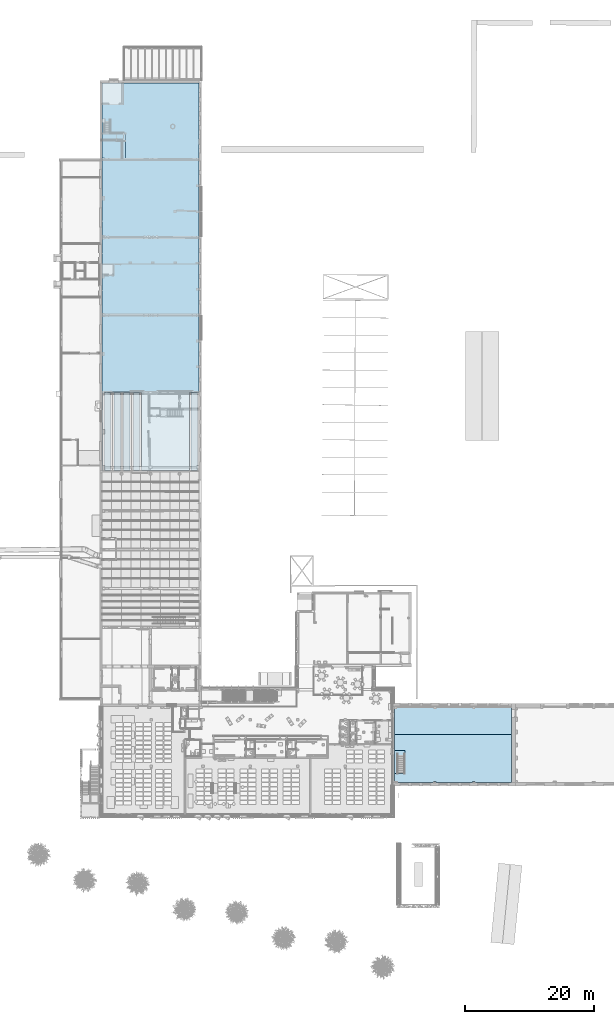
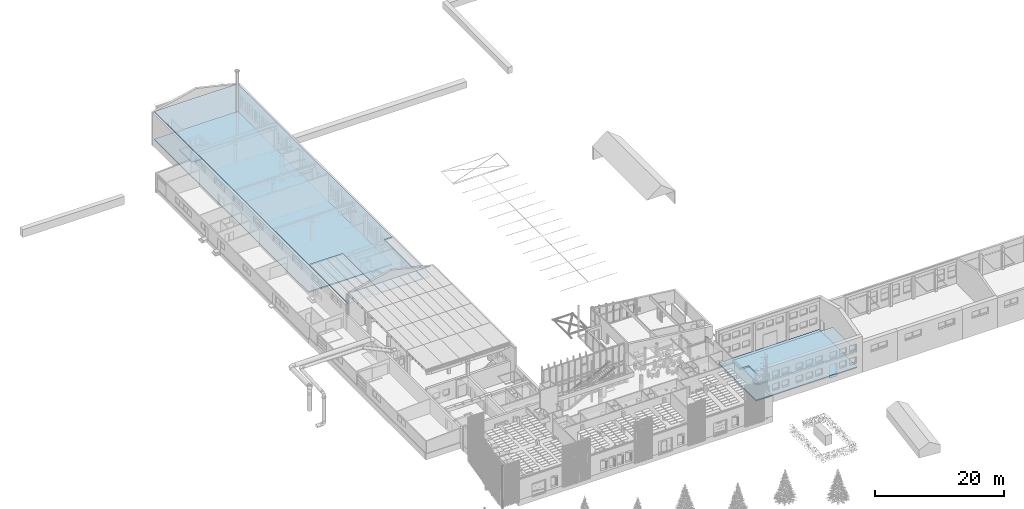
# One storey, part 80 of 301: 5 slabs.
"""IFC2X3 building model written with IfcOpenShell, lengths in millimetres."""

import ifcopenshell
import ifcopenshell.guid

model = None  # the IFC model being written
_history = None  # IfcOwnerHistory: only IFC2X3 demands one
_inside = {}  # id of a spatial element -> (the spatial element, [elements in it])
_under = {}  # id of a project, library or spatial element -> (it, [spatial elements below it])
_declared = {}  # id of a project -> (the project, [libraries it declares])
_typed = {}  # id of a type object -> (the type object, [elements of that type])
_made_of = {}  # id of a material, layer set ... -> (it, [elements and type objects made of it])


def new_model(schema):
    """Start an empty IFC model of exactly this schema.

    Asked for "IFC4X3", IfcOpenShell would pick the latest addendum, in which some entities
    have other attributes; the version numbers below select the first issue.
    IFC2X3 requires an IfcOwnerHistory on every rooted entity: one is made here for all.
    """
    global model, _history
    if schema == "IFC4X3":
        model = ifcopenshell.file(schema_version=(4, 3, 0, 0))
    else:
        model = ifcopenshell.file(schema=schema)
    _inside.clear()
    _under.clear()
    _declared.clear()
    _typed.clear()
    _made_of.clear()
    _history = None
    if model.schema == "IFC2X3":
        org = make("IfcOrganization", Name="unknown")
        user = make(
            "IfcPersonAndOrganization",
            ThePerson=make("IfcPerson", FamilyName="unknown"),
            TheOrganization=org,
        )
        app = make(
            "IfcApplication",
            ApplicationDeveloper=org,
            Version="unknown",
            ApplicationFullName="unknown",
            ApplicationIdentifier="unknown",
        )
        _history = make(
            "IfcOwnerHistory",
            OwningUser=user,
            OwningApplication=app,
            ChangeAction="ADDED",
            CreationDate=0,
        )
    return model


def make(cls, **values):
    """One entity of the class cls with the attributes given. An attribute that is None is left unset."""
    return model.create_entity(
        cls, **{name: value for name, value in values.items() if value is not None}
    )


def entity(cls, *values):
    """Any entity or typed value of the class cls, its attributes in the order of the schema. None: left unset."""
    e = model.create_entity(cls)
    for i, value in enumerate(values):
        if value is not None:
            e[i] = value
    return e


def rooted(cls, **values):
    """An entity with a GlobalId (a new one), such as an element, a storey or a relation."""
    return make(cls, GlobalId=ifcopenshell.guid.new(), OwnerHistory=_history, **values)


def si_unit(unit_type, name, prefix=None):
    """IfcSIUnit, for example si_unit("LENGTHUNIT", "METRE", prefix="MILLI")."""
    return make("IfcSIUnit", UnitType=unit_type, Prefix=prefix, Name=name)


def converted_unit(unit_type, name, factor, base, dimensions=None, offset=None):
    """IfcConversionBasedUnit, such as the inch: factor (a typed value) times the base unit."""
    return make(
        "IfcConversionBasedUnit"
        if offset is None
        else "IfcConversionBasedUnitWithOffset",
        ConversionOffset=offset,
        Dimensions=None
        if dimensions is None
        else entity("IfcDimensionalExponents", *dimensions),
        UnitType=unit_type,
        Name=name,
        ConversionFactor=make(
            "IfcMeasureWithUnit", ValueComponent=factor, UnitComponent=base
        ),
    )


def derived_unit(unit_type, elements):
    """IfcDerivedUnit: a product of units, each with its exponent."""
    return make(
        "IfcDerivedUnit",
        Elements=[
            make("IfcDerivedUnitElement", Unit=unit, Exponent=power)
            for unit, power in elements
        ],
        UnitType=unit_type,
    )


def money_unit(currency):
    """IfcMonetaryUnit."""
    return make("IfcMonetaryUnit", Currency=currency)


def assignment(units):
    """IfcUnitAssignment: the units of a project."""
    return None if units is None else make("IfcUnitAssignment", Units=units)


def point(xyz):
    """IfcCartesianPoint."""
    return None if xyz is None else make("IfcCartesianPoint", Coordinates=xyz)


def direction(xyz):
    """IfcDirection."""
    return None if xyz is None else make("IfcDirection", DirectionRatios=xyz)


def frame(location, z_axis=None, x_axis=None):
    """IfcAxis2Placement3D, a coordinate frame: its origin and axes. An axis left out is left unset."""
    return make(
        "IfcAxis2Placement3D",
        Location=point(location),
        Axis=direction(z_axis),
        RefDirection=direction(x_axis),
    )


def origin_with_axes():
    """The frame at (0, 0, 0) with the z axis (0, 0, 1) and the x axis (1, 0, 0) written out."""
    return frame((0.0, 0.0, 0.0), z_axis=(0.0, 0.0, 1.0), x_axis=(1.0, 0.0, 0.0))


def place(relative_to, where):
    """IfcLocalPlacement: puts the frame where relative to a parent placement (None: the world)."""
    return make(
        "IfcLocalPlacement", PlacementRelTo=relative_to, RelativePlacement=where
    )


def context(
    kind, dimensions, precision=None, world=None, true_north=None, identifier=None
):
    """IfcGeometricRepresentationContext, for example the 3D "Model" context."""
    return make(
        "IfcGeometricRepresentationContext",
        ContextIdentifier=identifier,
        ContextType=kind,
        CoordinateSpaceDimension=dimensions,
        Precision=precision,
        WorldCoordinateSystem=world,
        TrueNorth=true_north,
    )


def subcontext(parent, identifier, kind, view, scale=None):
    """IfcGeometricRepresentationSubContext, for example "Body" below "Model"."""
    return make(
        "IfcGeometricRepresentationSubContext",
        ContextIdentifier=identifier,
        ContextType=kind,
        ParentContext=parent,
        TargetScale=scale,
        TargetView=view,
    )


def project(units=None, contexts=None):
    """IfcProject with its units and contexts."""
    return rooted(
        "IfcProject",
        Name="project",
        RepresentationContexts=contexts,
        UnitsInContext=assignment(units),
    )


def spatial(cls, under=None, at=None, **own):
    """A site, building, storey or space (cls), placed at a placement, below another one or the project."""
    s = rooted(cls, ObjectPlacement=at, **own)
    if under is not None:
        _under.setdefault(under.id(), (under, []))[1].append(s)
    return s


def faces_of(points, faces, orient=None, outer=None):
    """IfcFace entities. A face is a list of loops; a loop is a list of indices into points, from 0.

    orient and outer hold one flag for each loop. By default every Orientation is true, the
    first loop of a face is its IfcFaceOuterBound and the others are IfcFaceBound.
    """
    made = []
    for i, loops in enumerate(faces):
        bounds = []
        for j, loop in enumerate(loops):
            is_outer = j == 0 if outer is None else outer[i][j]
            bounds.append(
                make(
                    "IfcFaceOuterBound" if is_outer else "IfcFaceBound",
                    Bound=make("IfcPolyLoop", Polygon=[points[k] for k in loop]),
                    Orientation=True if orient is None else orient[i][j],
                )
            )
        made.append(make("IfcFace", Bounds=bounds))
    return made


def faceted_brep(points, faces, orient=None, outer=None, voids=None):
    """IfcFacetedBrep: a solid bounded by flat faces; with voids (closed shells), ...WithVoids."""
    shared = [point(p) for p in points]
    hull = make("IfcClosedShell", CfsFaces=faces_of(shared, faces, orient, outer))
    if voids is None:
        return make("IfcFacetedBrep", Outer=hull)
    return make(
        "IfcFacetedBrepWithVoids",
        Outer=hull,
        Voids=[
            make(cls, CfsFaces=faces_of(shared, fs, o, b)) for cls, fs, o, b in voids
        ],
    )


def shape(context_of_items, identifier, shape_type, items):
    """IfcShapeRepresentation: the items that make up one representation, for example the "Body"."""
    return make(
        "IfcShapeRepresentation",
        ContextOfItems=context_of_items,
        RepresentationIdentifier=identifier,
        RepresentationType=shape_type,
        Items=items,
    )


def material(Name=None, Category=None):
    """IfcMaterial."""
    return make("IfcMaterial", Name=Name, Category=Category)


def made_of(thing, what):
    """Note that an element or type object is made of a material, layer set ...; save() writes the relation."""
    if what is not None:
        _made_of.setdefault(what.id(), (what, []))[1].append(thing)
    return thing


def type_object(cls, material=None, **own):
    """A type object (cls), such as IfcWallType, which elements share."""
    return made_of(rooted(cls, **own), material)


def element(
    cls,
    number,
    at=None,
    inside=None,
    cuts=None,
    type_object=None,
    material=None,
    context=None,
    identifier="Body",
    shape_type=None,
    held_by="IfcProductDefinitionShape",
    body=None,
    shapes=None,
    **own,
):
    """One element of the class cls, such as IfcWall. Its Tag is "e" and its number.

    at: its placement. inside: the storey or other place that contains it. cuts: it is an
    opening in that element (IfcRelVoidsElement). A single representation is given by context,
    identifier, shape_type and body (its items); several are given by shapes. held_by: the class
    of the entity that holds the representations. save() writes the other relations.
    """
    e = rooted(cls, Tag="e%d" % number, ObjectPlacement=at, **own)
    if body is not None:
        shapes = [shape(context, identifier, shape_type, body)]
    if shapes is not None:
        e.Representation = make(held_by, Representations=shapes)
    if inside is not None:
        _inside.setdefault(inside.id(), (inside, []))[1].append(e)
    if cuts is not None:
        rooted(
            "IfcRelVoidsElement", RelatingBuildingElement=cuts, RelatedOpeningElement=e
        )
    if type_object is not None:
        _typed.setdefault(type_object.id(), (type_object, []))[1].append(e)
    return made_of(e, material)


def aggregate(whole, parts):
    """IfcRelAggregates: a whole, such as a stair, and the parts it consists of."""
    return rooted("IfcRelAggregates", RelatingObject=whole, RelatedObjects=parts)


def save(model, path):
    """Write the relations noted so far, then the file.

    IfcRelAggregates (storeys below a building ...), IfcRelContainedInSpatialStructure (elements
    in a storey), IfcRelDefinesByType, IfcRelAssociatesMaterial and IfcRelDeclares: one each for
    every whole, place, type object, material and project.
    """
    for whole, parts in _under.values():
        aggregate(whole, parts)
    for where, things in _inside.values():
        rooted(
            "IfcRelContainedInSpatialStructure",
            RelatedElements=things,
            RelatingStructure=where,
        )
    for kind, things in _typed.values():
        rooted("IfcRelDefinesByType", RelatedObjects=things, RelatingType=kind)
    for what, things in _made_of.values():
        rooted("IfcRelAssociatesMaterial", RelatedObjects=things, RelatingMaterial=what)
    for by, libraries in _declared.values():
        rooted("IfcRelDeclares", RelatingContext=by, RelatedDefinitions=libraries)
    model.write(path)


model = new_model("IFC2X3")

# Units and contexts
model_context = context("Model", 3, precision=0.01, world=origin_with_axes(), true_north=direction((0.0, 1.0)))
body_context = subcontext(model_context, "Body", "Model", "MODEL_VIEW")
ifc_project = project(units=[si_unit("LENGTHUNIT", "METRE", prefix="MILLI"), si_unit("AREAUNIT", "SQUARE_METRE"), si_unit("VOLUMEUNIT", "CUBIC_METRE"), converted_unit("PLANEANGLEUNIT", "DEGREE", entity("IfcPlaneAngleMeasure", 0.0174532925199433), si_unit("PLANEANGLEUNIT", "RADIAN"), dimensions=[0, 0, 0, 0, 0, 0, 0]), money_unit("EUR"), converted_unit("TIMEUNIT", "Year", entity("IfcTimeMeasure", 31557600.0), si_unit("TIMEUNIT", "SECOND"), dimensions=[0, 0, 1, 0, 0, 0, 0]), si_unit("MASSUNIT", "GRAM", prefix="KILO"), si_unit("THERMODYNAMICTEMPERATUREUNIT", "DEGREE_CELSIUS"), si_unit("LUMINOUSINTENSITYUNIT", "LUMEN"), si_unit("ENERGYUNIT", "JOULE", prefix="MEGA"), derived_unit("THERMALCONDUCTANCEUNIT", [(si_unit("POWERUNIT", "WATT"), 1), (si_unit("LENGTHUNIT", "METRE"), -1), (si_unit("THERMODYNAMICTEMPERATUREUNIT", "KELVIN"), -1)]), derived_unit("SPECIFICHEATCAPACITYUNIT", [(si_unit("ENERGYUNIT", "JOULE"), 1), (si_unit("MASSUNIT", "GRAM", prefix="KILO"), -1), (si_unit("THERMODYNAMICTEMPERATUREUNIT", "KELVIN"), -1)]), derived_unit("MASSDENSITYUNIT", [(si_unit("MASSUNIT", "GRAM", prefix="KILO"), 1), (si_unit("VOLUMEUNIT", "CUBIC_METRE"), -1)])], contexts=[model_context])

# Site, building, storey
site_placement = place(None, frame((0.0, 0.0, 8650.0), z_axis=(0.0, 0.0, 1.0), x_axis=(1.0, 0.0, 0.0)))
site = spatial("IfcSite", under=ifc_project, at=site_placement, Name="43301:001:0844", CompositionType="ELEMENT")
building_placement = place(site_placement, origin_with_axes())
building = spatial("IfcBuilding", under=site, at=building_placement, Name="Kuressaare Ametikooli tuulikute mehaanikute õppekorpus", CompositionType="ELEMENT")
storey_placement = place(building_placement, origin_with_axes())
storey = spatial("IfcBuildingStorey", under=building, at=storey_placement, Name="1.korrus", CompositionType="ELEMENT", Elevation=0.0)

# Slabs
ifc_material = material(Name="GENEERILINE - KONSTRUKTRIOON")
slab_type_1 = type_object("IfcSlabType", Name="GENEERILINE - KONSTRUKTRIOON 200", PredefinedType="NOTDEFINED")
slab_1_placement = place(storey_placement, frame((133534.9464416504, 14017.65771690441, 0.0), z_axis=(0.0, 0.0, 1.0), x_axis=(1.0, 0.0, 0.0)))
element("IfcSlab", 1, at=slab_1_placement, inside=storey, type_object=slab_type_1, material=ifc_material, PredefinedType="NOTDEFINED", context=body_context, shape_type="Brep", body=[
    faceted_brep([(18058.67385864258, 0.0, 0.0), (0.0, 0.0, 0.0), (0.0, 0.0, -200.0000000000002), (18058.67385864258, 0.0, -200.0000000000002), (18058.67385864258, 11725.33094581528, 0.0), (0.0, 11725.33094581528, 0.0), (0.0, 11725.33094581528, -200.0000000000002), (18058.67385864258, 11725.33094581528, -200.0000000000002)], [[[0, 1, 2, 3]], [[4, 5, 1, 0]], [[1, 5, 6, 2]], [[7, 3, 2, 6]], [[4, 0, 3, 7]], [[5, 4, 7, 6]]]),
])
slab_2_placement = place(storey_placement, frame((88218.83476018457, 122333.5823529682, -330.0513703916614), z_axis=(0.0, 0.0, 1.0), x_axis=(1.0, 0.0, 0.0)))
element("IfcSlab", 2, at=slab_2_placement, inside=storey, type_object=slab_type_1, material=ifc_material, PredefinedType="NOTDEFINED", context=body_context, shape_type="Brep", body=[
    faceted_brep([(0.0, 0.0, 0.0), (0.0, 0.0, -200.0), (-0.09198175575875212, -12014.74019725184, -200.0), (-0.09198175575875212, -12014.74019725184, 0.0), (15008.67744684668, -4.159831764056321, 0.0), (15008.67744684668, -4.159831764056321, -200.0), (15008.67744684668, -47768.3897332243, -200.0), (39.92168665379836, -47768.3897332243, -200.0), (39.92168665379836, -12014.74050358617, -200.0), (39.92168665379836, -12014.74050358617, 0.0), (39.92168665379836, -47768.3897332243, 0.0), (15008.67744684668, -47768.3897332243, 0.0)], [[[0, 1, 2, 3]], [[4, 5, 1, 0]], [[2, 1, 5, 6, 7, 8]], [[3, 2, 8, 9]], [[4, 0, 3, 9, 10, 11]], [[11, 6, 5, 4]], [[10, 7, 6, 11]], [[9, 8, 7, 10]]]),
])
slab_type_2 = type_object("IfcSlabType", Name="GENEERILINE - KONSTRUKTRIOON 330", PredefinedType="NOTDEFINED")
slab_3_placement = place(storey_placement, frame((133534.9464416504, 21507.63687614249, 2995.0), z_axis=(0.0, 0.0, 1.0), x_axis=(1.0, 0.0, 0.0)))
element("IfcSlab", 3, at=slab_3_placement, inside=storey, type_object=slab_type_2, material=ifc_material, PredefinedType="NOTDEFINED", context=body_context, shape_type="Brep", body=[
    faceted_brep([(0.0, -7279.979152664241, 0.0), (450.0003184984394, -7279.979152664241, 0.0), (450.0003184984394, -7489.979159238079, 0.0), (6001.653711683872, -7489.979159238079, 0.0), (6001.653711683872, -7314.979014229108, 0.0), (6401.654330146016, -7314.979014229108, 0.0), (6401.654330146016, -7489.979159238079, 0.0), (12061.65371168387, -7489.979159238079, 0.0), (12061.65371168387, -7314.979014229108, 0.0), (12461.65433014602, -7314.979014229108, 0.0), (12461.65433014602, -7489.979159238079, 0.0), (18058.67385864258, -7489.979159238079, 0.0), (18058.67385864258, 0.0, 0.0), (0.0, 0.0, 0.0), (0.0, -2496.466872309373, 0.0), (1581.471555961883, -2496.466872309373, 0.0), (1581.471555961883, -6112.336681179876, 0.0), (0.0, -6112.336681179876, 0.0), (450.0003184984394, -7279.979152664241, -330.0000000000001), (0.0, -7279.979152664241, -330.0000000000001), (450.0003184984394, -7489.979159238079, -330.0000000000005), (6001.653711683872, -7489.979159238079, -329.9999999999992), (6001.653711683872, -7314.979014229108, -330.0000000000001), (6401.654330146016, -7314.979014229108, -330.0000000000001), (6401.654330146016, -7489.979159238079, -330.000000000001), (12061.65371168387, -7489.979159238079, -330.0000000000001), (12061.65371168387, -7314.979014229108, -330.0000000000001), (12461.65433014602, -7314.979014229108, -330.0000000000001), (12461.65433014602, -7489.979159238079, -330.0000000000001), (18058.67385864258, -7489.979159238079, -330.0000000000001), (18058.67385864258, 0.0, -330.0000000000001), (0.0, 0.0, -330.0000000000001), (0.0, -2496.466872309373, -330.0000000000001), (1581.471555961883, -2496.466872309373, -330.0000000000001), (1581.471555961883, -6112.336681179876, -330.0000000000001), (0.0, -6112.336681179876, -330.0000000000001)], [[[0, 1, 2, 3, 4, 5, 6, 7, 8, 9, 10, 11, 12, 13, 14, 15, 16, 17]], [[18, 1, 0, 19]], [[20, 2, 1, 18]], [[3, 2, 20, 21]], [[22, 4, 3, 21]], [[23, 5, 4, 22]], [[24, 6, 5, 23]], [[7, 6, 24, 25]], [[26, 8, 7, 25]], [[27, 9, 8, 26]], [[28, 10, 9, 27]], [[11, 10, 28, 29]], [[12, 11, 29, 30]], [[13, 12, 30, 31]], [[14, 13, 31, 32]], [[15, 14, 32, 33]], [[16, 15, 33, 34]], [[17, 16, 34, 35]], [[35, 19, 0, 17]], [[20, 18, 19, 35, 34, 33, 32, 31, 30, 29, 28, 27, 26, 25, 24, 23, 22, 21]]]),
])
slab_type_3 = type_object("IfcSlabType", Name="GENEERILINE - KONSTRUKTRIOON 150", PredefinedType="NOTDEFINED")
slab_4_placement = place(storey_placement, frame((88218.83476018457, 122333.5823529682, 4910.0), z_axis=(0.0, 0.0, 1.0), x_axis=(1.0, 0.0, 0.0)))
element("IfcSlab", 4, at=slab_4_placement, inside=storey, type_object=slab_type_3, material=ifc_material, PredefinedType="NOTDEFINED", context=body_context, shape_type="Brep", body=[
    faceted_brep([(112.7520758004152, -60015.23843167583, 0.0), (112.7520758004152, -47926.35677910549, 0.0), (6112.752075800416, -47926.35677910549, 0.0), (6112.752075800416, -60015.23843167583, 0.0), (13537.05161785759, -60015.23843167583, 0.0), (13537.05161785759, -47926.35677910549, 0.0), (15008.67744684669, -47926.35677910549, 0.0), (15008.67744684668, -4.159831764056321, 0.0), (0.0, 0.0, 0.0), (-0.09198175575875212, -12014.74019725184, 0.0), (39.92168665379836, -12014.74050358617, 0.0), (39.92168665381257, -60015.23843167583, 0.0), (112.7520758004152, -60015.23843167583, -150.0000000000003), (112.7520758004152, -47926.35677910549, -150.0000000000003), (1360.89734143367, -47926.35677910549, -149.8234995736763), (1361.784702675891, -47926.35677910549, -150.0000000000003), (1874.345371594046, -47926.35677910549, -150.0000000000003), (1875.42306683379, -47926.35677910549, -149.822130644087), (2860.89734143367, -47926.35677910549, -149.8234995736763), (2861.784702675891, -47926.35677910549, -150.0000000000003), (3374.345371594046, -47926.35677910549, -150.0000000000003), (3375.42306683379, -47926.35677910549, -149.822130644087), (4360.897341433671, -47926.35677910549, -149.8234995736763), (4361.784702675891, -47926.35677910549, -150.0000000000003), (4874.345371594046, -47926.35677910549, -150.0000000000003), (4875.42306683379, -47926.35677910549, -149.822130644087), (5860.897341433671, -47926.35677910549, -149.8234995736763), (5861.784702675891, -47926.35677910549, -150.0000000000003), (6112.752075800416, -47926.35677910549, -150.0000000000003), (374.3453715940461, -47926.35677910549, -150.0000000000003), (375.4230668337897, -47926.35677910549, -149.822130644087), (6112.752075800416, -60015.23843167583, -150.0000000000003), (13537.05161785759, -60015.23843167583, -150.0000000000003), (13537.05161785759, -47926.35677910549, -150.0000000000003), (14785.19688349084, -47926.35677910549, -149.8234995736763), (14786.08424473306, -47926.35677910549, -150.0000000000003), (15008.67744684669, -47926.35677910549, -150.0000000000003), (13798.64491365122, -47926.35677910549, -150.0000000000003), (13799.72260889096, -47926.35677910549, -149.822130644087), (15008.67744684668, -4.159831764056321, -150.0000000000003), (0.0, 0.0, -150.0000000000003), (-0.09198175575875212, -12014.74019725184, -150.0000000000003), (39.92168665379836, -12014.74050358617, -150.0000000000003), (39.92168665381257, -60015.23843167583, -150.0000000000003), (2861.784702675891, -60015.23843167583, -149.9999999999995), (1874.345371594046, -60015.23843167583, -150.0000000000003), (1361.784702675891, -60015.23843167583, -149.9999999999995), (374.3453715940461, -60015.23843167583, -150.0000000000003), (14786.08424473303, -60015.23843167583, -149.9999999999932), (13798.6449136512, -60015.23843167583, -150.0000000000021), (5861.784702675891, -60015.23843167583, -149.9999999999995), (4874.345371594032, -60015.23843167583, -150.0000000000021), (4361.784702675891, -60015.23843167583, -149.9999999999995), (3374.345371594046, -60015.23843167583, -150.0000000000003), (1360.89734143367, -60015.23843167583, -149.8234995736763), (1875.42306683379, -60015.23843167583, -149.822130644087), (2860.89734143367, -60015.23843167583, -149.8234995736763), (3375.42306683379, -60015.23843167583, -149.822130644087), (4360.897341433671, -60015.23843167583, -149.8234995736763), (4875.42306683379, -60015.23843167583, -149.822130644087), (5860.897341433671, -60015.23843167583, -149.8234995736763), (375.4230668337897, -60015.23843167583, -149.822130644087), (14785.19688349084, -60015.23843167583, -149.8234995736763), (13799.72260889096, -60015.23843167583, -149.822130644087)], [[[0, 1, 2, 3, 4, 5, 6, 7, 8, 9, 10, 11]], [[12, 13, 1, 0]], [[14, 15, 16, 17, 18, 19, 20, 21, 22, 23, 24, 25, 26, 27, 28, 2, 1, 13, 29, 30]], [[28, 31, 3, 2]], [[32, 4, 3, 31]], [[32, 33, 5, 4]], [[34, 35, 36, 6, 5, 33, 37, 38]], [[39, 7, 6, 36]], [[40, 8, 7, 39]], [[41, 9, 8, 40]], [[42, 10, 9, 41]], [[43, 11, 10, 42]], [[11, 43, 12, 0]], [[44, 45, 16, 15, 46, 47, 29, 13, 12, 43, 42, 41, 40, 39, 36, 35, 48, 49, 37, 33, 32, 31, 28, 27, 50, 51, 24, 23, 52, 53, 20, 19]], [[14, 54, 46, 15]], [[17, 16, 45, 55]], [[18, 17, 55, 56]], [[18, 56, 44, 19]], [[21, 20, 53, 57]], [[22, 21, 57, 58]], [[22, 58, 52, 23]], [[25, 24, 51, 59]], [[26, 25, 59, 60]], [[26, 60, 50, 27]], [[30, 29, 47, 61]], [[14, 30, 61, 54]], [[34, 62, 48, 35]], [[38, 37, 49, 63]], [[34, 38, 63, 62]], [[44, 56, 55, 45]], [[46, 54, 61, 47]], [[48, 62, 63, 49]], [[50, 60, 59, 51]], [[52, 58, 57, 53]]]),
])
slab_type_4 = type_object("IfcSlabType", Name="GENEERILINE - KONSTRUKTRIOON 175", PredefinedType="NOTDEFINED")
slab_5_placement = place(storey_placement, frame((91835.70812907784, 114611.9480091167, 2360.0), z_axis=(0.0, 0.0, 1.0), x_axis=(1.0, 0.0, 0.0)))
element("IfcSlab", 5, at=slab_5_placement, inside=storey, type_object=slab_type_4, material=ifc_material, PredefinedType="NOTDEFINED", context=body_context, shape_type="Brep", body=[
    faceted_brep([(-3616.962145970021, -3874.507781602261, 0.0), (-3196.962145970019, -3874.507781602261, 0.0), (-3196.962145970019, -3959.283765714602, 0.0), (27.39394469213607, -3959.283765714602, 0.0), (0.0, 0.0, 0.0), (-3616.932483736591, 0.0, 0.0), (-3196.962145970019, -3874.507781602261, -174.9999999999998), (-3616.962145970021, -3874.507781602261, -174.9999999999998), (-3196.962145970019, -3959.283765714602, -174.9999999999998), (27.39394469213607, -3959.283765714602, -174.9999999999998), (0.0, 0.0, -174.9999999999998), (-3616.932483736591, 0.0, -174.9999999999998)], [[[0, 1, 2, 3, 4, 5]], [[6, 1, 0, 7]], [[8, 2, 1, 6]], [[3, 2, 8, 9]], [[9, 10, 4, 3]], [[10, 11, 5, 4]], [[11, 7, 0, 5]], [[8, 6, 7, 11, 10, 9]]]),
])

save(model, "model.ifc")
